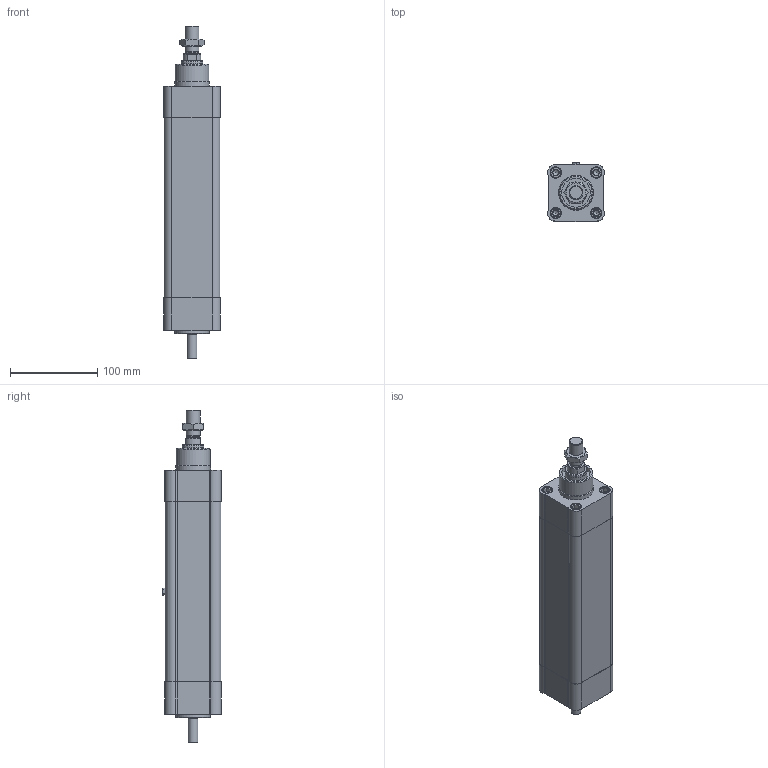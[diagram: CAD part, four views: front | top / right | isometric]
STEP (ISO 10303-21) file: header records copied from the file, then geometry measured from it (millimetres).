
FILE_DESCRIPTION(/* description */ ('STEP AP203'),/* implementation_level */ '2;1');
FILE_NAME(/* name */ 'PNCE 50 BS 2005 100 S(0)',/* time_stamp */ '2025-01-24T08:09:50+01:00',/* author */ ('License CC BY-ND 4.0'),/* organization */ ('CADENAS'),/* preprocessor_version */ 'ST-DEVELOPER v19.3',/* originating_system */ 'PARTsolutions',/* authorisation */ ' ');
FILE_SCHEMA (('CONFIG_CONTROL_DESIGN'));
Length unit declared in the file: millimetre
Products named in the file (6): PNCE 50 BS 2005 100 S(0); PNCE 50_drive cap; PNCE 50 100 S(0)_cylinder profil; PNCE 50_front cap; PNCE 50 100 S 0_piston rod; PNCE 50_nut
Assembly tree (5 placements, depth 2):
  PNCE 50 BS 2005 100 S(0)
    PNCE 50_drive cap
    PNCE 50 100 S(0)_cylinder profil
    PNCE 50_front cap
    PNCE 50 100 S 0_piston rod
    PNCE 50_nut
Bounding box: 64.97 x 67.5 x 381 mm (x, y, z)
Volume: 972705.3 mm3; surface area: 210592.7 mm2
Topology: 5 solids, 5 shells, 261 faces, 582 edges, 381 vertices
Faces by surface type: plane 136, cylinder 91, cone 32, torus 2
Full cylindrical faces by diameter (mm): 5.3 x1, 6.647 x8, 6.7 x4, 8 x8, 8.566 x1, 8.7 x4, 10.6 x1, 11 x1, 12 x8, 13 x8, 14.2 x1, 14.376 x1, 16 x1, 24.8 x1, 25 x2, 31 x1, 33 x1, 39 x1, 40 x2, 49 x1, 50 x3
Entity records: 8357 total; most frequent: DIRECTION 1188, CARTESIAN_POINT 1180, ORIENTED_EDGE 930, AXIS2_PLACEMENT_3D 472, EDGE_CURVE 465, FACE_BOUND 425, EDGE_LOOP 416, VERTEX_POINT 364
